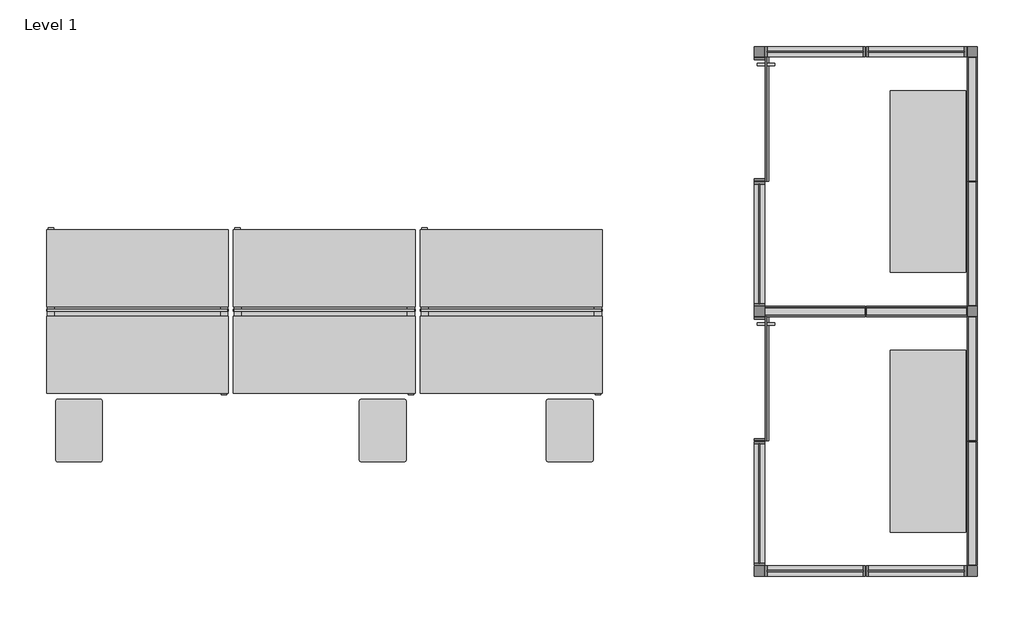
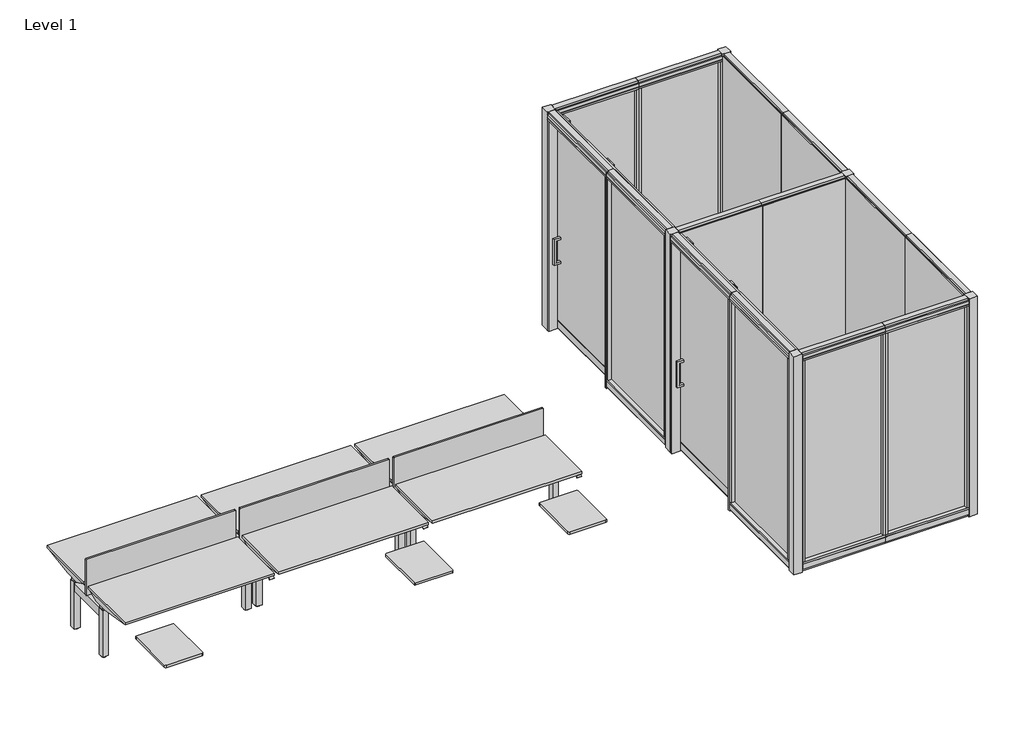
# One storey, incomplete: 33 furniture elements.
"""IFC4 building model written with IfcOpenShell, lengths in millimetres."""

from ifc_helpers import new_model, si_unit, origin, place, context, project, spatial, transform, mapped, element, save
from components import furniture_cf509416, furniture_ffbbdd7f, furniture_82a8fee0, furniture_92cb9c1f, furniture_a4c772e7, furniture_06a94076, furniture_7c117798, closed_system_2_way_90_8ed795e9, closed_system_2_way_90_dde00ff1, furniture_40993e6f, furniture_d20c8d1a, furniture_73a514d5, haworth_planes_heightadjusttable_bench_rectangular_58w_63d_0bb0f0b5, furniture_86ecbb01, haworth_worksurface_support_part_shared_cantilever_compose_b6f0c20a, haworth_worksurface_support_part_shared_cantilever_compose_4b8fdd10

model = new_model("IFC4")

# Units and contexts
model_context = context("Model", 3, world=origin())
ifc_project = project(units=[si_unit("LENGTHUNIT", "METRE", prefix="MILLI")], contexts=[model_context])

# Site, building, storey
site = spatial("IfcSite", under=ifc_project)
building = spatial("IfcBuilding", under=site)
storey = spatial("IfcBuildingStorey", under=building, Name="Level 1", Elevation=0.0)

# Furniture
placement = place(None, origin())
furniture_shape = furniture_cf509416(model_context)
element("IfcFurniture", 1, ObjectType="Haworth_Enclose-Wall-Solid : 24\" x 108\"", at=placement, inside=storey, context=model_context, shape_type="MappedRepresentation", body=[
    mapped(furniture_shape, transform((5240.5915562, -405.4203453, 0.0), x_axis=(0.0, 1.0000000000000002, 0.0), y_axis=(-1.0000000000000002, 0.0, 0.0), z_axis=(0.0, 0.0, 1.0))),
])
element("IfcFurniture", 2, ObjectType="Haworth_Enclose-Wall-Solid : 24\" x 108\"", at=placement, inside=storey, context=model_context, shape_type="MappedRepresentation", body=[
    mapped(furniture_shape, transform((5240.5915562, 813.7796547, 0.0), x_axis=(0.0, 1.0000000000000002, 0.0), y_axis=(-1.0000000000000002, 0.0, 0.0), z_axis=(0.0, 0.0, 1.0))),
])
furniture_2_shape = furniture_ffbbdd7f(model_context)
element("IfcFurniture", 3, ObjectType="Haworth_Enclose-Wall-Solid : 24\" x 108\"", at=placement, inside=storey, context=model_context, shape_type="MappedRepresentation", body=[
    mapped(furniture_2_shape, transform((5240.5915562, 3233.7066088, 0.0), x_axis=(0.0, -1.0000000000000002, 0.0), y_axis=(1.0000000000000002, 0.0, 0.0), z_axis=(0.0, 0.0, 1.0))),
])
element("IfcFurniture", 4, ObjectType="Haworth_Enclose-Wall-Solid : 24\" x 108\"", at=placement, inside=storey, context=model_context, shape_type="MappedRepresentation", body=[
    mapped(furniture_2_shape, transform((5240.5915562, 2014.5066088, 0.0), x_axis=(0.0, -1.0000000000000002, 0.0), y_axis=(1.0000000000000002, 0.0, 0.0), z_axis=(0.0, 0.0, 1.0))),
])
furniture_3_shape = furniture_82a8fee0(model_context)
element("IfcFurniture", 5, ObjectType="Haworth_Enclose-Wall-Solid : 36\" x 108\"", at=placement, inside=storey, context=model_context, shape_type="MappedRepresentation", body=[
    mapped(furniture_3_shape, transform((4759.0458008, 1418.6608534, 0.0), x_axis=(1.0, 0.0, 0.0), y_axis=(0.0, 1.0, 0.0), z_axis=(0.0, 0.0, 1.0))),
])
element("IfcFurniture", 6, ObjectType="Haworth_Enclose-Wall-Solid : 36\" x 108\"", at=placement, inside=storey, context=model_context, shape_type="MappedRepresentation", body=[
    mapped(furniture_3_shape, transform((3768.4458008, 1418.6608534, 0.0), x_axis=(1.0, 0.0, 0.0), y_axis=(0.0, 1.0, 0.0), z_axis=(0.0, 0.0, 1.0))),
])
furniture_4_shape = furniture_92cb9c1f(model_context)
element("IfcFurniture", 7, ObjectType="Haworth_Enclose-Wall-Glass : 39\" x 108\"", at=placement, inside=storey, context=model_context, shape_type="MappedRepresentation", body=[
    mapped(furniture_4_shape, transform((4638.9727549, 3949.6254101, 0.0), x_axis=(-1.0000000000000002, 0.0, 0.0), y_axis=(0.0, -1.0000000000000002, 0.0), z_axis=(0.0, 0.0, 1.0))),
])
element("IfcFurniture", 8, ObjectType="Haworth_Enclose-Wall-Glass : 39\" x 108\"", at=placement, inside=storey, context=model_context, shape_type="MappedRepresentation", body=[
    mapped(furniture_4_shape, transform((3648.3727549, 3949.6254101, 0.0), x_axis=(-1.0000000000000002, 0.0, 0.0), y_axis=(0.0, -1.0000000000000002, 0.0), z_axis=(0.0, 0.0, 1.0))),
])
furniture_5_shape = furniture_a4c772e7(model_context)
element("IfcFurniture", 9, ObjectType="Haworth_Enclose-Wall-Glass : 39\" x 108\"", at=placement, inside=storey, context=model_context, shape_type="MappedRepresentation", body=[
    mapped(furniture_5_shape, transform((4638.9727549, -1121.3391466, 0.0), x_axis=(-1.0000000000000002, 0.0, 0.0), y_axis=(0.0, -1.0000000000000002, 0.0), z_axis=(0.0, 0.0, 1.0))),
])
element("IfcFurniture", 10, ObjectType="Haworth_Enclose-Wall-Glass : 39\" x 108\"", at=placement, inside=storey, context=model_context, shape_type="MappedRepresentation", body=[
    mapped(furniture_5_shape, transform((3648.3727549, -1121.3391466, 0.0), x_axis=(-1.0000000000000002, 0.0, 0.0), y_axis=(0.0, -1.0000000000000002, 0.0), z_axis=(0.0, 0.0, 1.0))),
])
furniture_6_shape = furniture_06a94076(model_context)
element("IfcFurniture", 11, ObjectType="Haworth_Enclose-Wall-Glass : 48\" x 108\"", at=placement, inside=storey, context=model_context, shape_type="MappedRepresentation", body=[
    mapped(furniture_6_shape, transform((3166.8269995, -525.4933912, 0.0), x_axis=(0.0, -1.0000000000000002, 0.0), y_axis=(1.0000000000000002, 0.0, 0.0), z_axis=(0.0, 0.0, 1.0))),
])
element("IfcFurniture", 12, ObjectType="Haworth_Enclose-Wall-Glass : 48\" x 108\"", at=placement, inside=storey, context=model_context, shape_type="MappedRepresentation", body=[
    mapped(furniture_6_shape, transform((3166.8269995, 2014.5066088, 0.0), x_axis=(0.0, -1.0000000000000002, 0.0), y_axis=(1.0000000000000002, 0.0, 0.0), z_axis=(0.0, 0.0, 1.0))),
])
furniture_7_shape = furniture_7c117798(model_context)
element("IfcFurniture", 13, ObjectType="Haworth_Enclose-Door-Single_Sliding : 48\" x 108\"", at=placement, inside=storey, context=model_context, shape_type="MappedRepresentation", body=[
    mapped(furniture_7_shape, transform((3157.7915562, 693.7066088, 0.0), x_axis=(0.0, -1.0, 0.0), y_axis=(1.0, 0.0, 0.0), z_axis=(0.0, 0.0, 1.0))),
])
element("IfcFurniture", 14, ObjectType="Haworth_Enclose-Door-Single_Sliding : 48\" x 108\"", at=placement, inside=storey, context=model_context, shape_type="MappedRepresentation", body=[
    mapped(furniture_7_shape, transform((3157.7915562, 3233.7066088, 0.0), x_axis=(0.0, -1.0, 0.0), y_axis=(1.0, 0.0, 0.0), z_axis=(0.0, 0.0, 1.0))),
])
closed_system_2_way_90_shape = closed_system_2_way_90_8ed795e9(model_context)
element("IfcFurniture", 15, ObjectType="Haworth_Enclose-Accessories-Wall_Module-Intersection : Closed System_2 Way_90", at=placement, inside=storey, context=model_context, shape_type="MappedRepresentation", body=[
    mapped(closed_system_2_way_90_shape, transform((5268.7112484, -1045.0797151, 0.0), x_axis=(0.0, -1.0, 0.0), y_axis=(1.0, 0.0, 0.0), z_axis=(0.0, 0.0, 1.0))),
])
element("IfcFurniture", 16, ObjectType="Haworth_Enclose-Accessories-Wall_Module-Intersection : Closed System_2 Way_90", at=placement, inside=storey, context=model_context, shape_type="MappedRepresentation", body=[
    mapped(closed_system_2_way_90_shape, transform((3138.7073073, 1333.3659786, 0.0), x_axis=(0.0, 1.0, 0.0), y_axis=(-1.0, 0.0, 0.0), z_axis=(0.0, 0.0, 1.0))),
])
element("IfcFurniture", 17, ObjectType="Haworth_Enclose-Accessories-Wall_Module-Intersection : Closed System_2 Way_90", at=placement, inside=storey, context=model_context, shape_type="MappedRepresentation", body=[
    mapped(closed_system_2_way_90_shape, transform((3138.7073073, 3873.3659786, 0.0), x_axis=(0.0, 1.0, 0.0), y_axis=(-1.0, 0.0, 0.0), z_axis=(0.0, 0.0, 1.0))),
])
closed_system_2_way_90_2_shape = closed_system_2_way_90_dde00ff1(model_context)
element("IfcFurniture", 18, ObjectType="Haworth_Enclose-Accessories-Wall_Module-Intersection : Closed System_2 Way_90", at=placement, inside=storey, context=model_context, shape_type="MappedRepresentation", body=[
    mapped(closed_system_2_way_90_2_shape, transform((3138.7073073, -1045.0797151, 0.0), x_axis=(0.0, -1.0, 0.0), y_axis=(1.0, 0.0, 0.0), z_axis=(0.0, 0.0, 1.0))),
])
element("IfcFurniture", 19, ObjectType="Haworth_Enclose-Accessories-Wall_Module-Intersection : Closed System_2 Way_90", at=placement, inside=storey, context=model_context, shape_type="MappedRepresentation", body=[
    mapped(closed_system_2_way_90_2_shape, transform((5268.7112484, 1333.3659786, 0.0), x_axis=(0.0, 1.0, 0.0), y_axis=(-1.0, 0.0, 0.0), z_axis=(0.0, 0.0, 1.0))),
])
element("IfcFurniture", 20, ObjectType="Haworth_Enclose-Accessories-Wall_Module-Intersection : Closed System_2 Way_90", at=placement, inside=storey, context=model_context, shape_type="MappedRepresentation", body=[
    mapped(closed_system_2_way_90_2_shape, transform((5268.7112484, 3873.3659786, 0.0), x_axis=(0.0, 1.0, 0.0), y_axis=(-1.0, 0.0, 0.0), z_axis=(0.0, 0.0, 1.0))),
])
furniture_8_shape = furniture_40993e6f(model_context)
element("IfcFurniture", 21, ObjectType="Haworth_Compose-Storage-Accessories-Cushion : 24\" x18\"", at=placement, inside=storey, context=model_context, shape_type="MappedRepresentation", body=[
    mapped(furniture_8_shape, transform((1307.1018455, 248.8218617, -44.45), x_axis=(0.0, 1.0, 0.0), y_axis=(-1.0, 0.0, 0.0), z_axis=(0.0, 0.0, 1.0))),
])
element("IfcFurniture", 22, ObjectType="Haworth_Compose-Storage-Accessories-Cushion : 24\" x18\"", at=placement, inside=storey, context=model_context, shape_type="MappedRepresentation", body=[
    mapped(furniture_8_shape, transform((-521.6981545, 248.8218617, -44.45), x_axis=(0.0, 1.0, 0.0), y_axis=(-1.0, 0.0, 0.0), z_axis=(0.0, 0.0, 1.0))),
])
furniture_9_shape = furniture_d20c8d1a(model_context)
element("IfcFurniture", 23, ObjectType="Haworth_Compose-Storage-Accessories-Cushion : 24\" x18\"", at=placement, inside=storey, context=model_context, shape_type="MappedRepresentation", body=[
    mapped(furniture_9_shape, transform((-3493.7459645, 248.8218617, -44.45), x_axis=(0.0, 1.0, 0.0), y_axis=(-1.0, 0.0, 0.0), z_axis=(0.0, 0.0, 1.0))),
])
furniture_10_shape = furniture_73a514d5(model_context)
element("IfcFurniture", 24, ObjectType="Haworth_Planes-HAT-Rectangular : 70\" x 29\"", at=placement, inside=storey, context=model_context, shape_type="MappedRepresentation", body=[
    mapped(furniture_10_shape, transform((4811.4188324, 2684.1431317, 0.0), x_axis=(0.0, 1.0, 0.0), y_axis=(-1.0, 0.0, 0.0), z_axis=(0.0, 0.0, 1.0))),
])
element("IfcFurniture", 25, ObjectType="Haworth_Planes-HAT-Rectangular : 70\" x 29\"", at=placement, inside=storey, context=model_context, shape_type="MappedRepresentation", body=[
    mapped(furniture_10_shape, transform((4811.4188324, 144.1431317, 0.0), x_axis=(0.0, 1.0, 0.0), y_axis=(-1.0, 0.0, 0.0), z_axis=(0.0, 0.0, 1.0))),
])
haworth_planes_heightadjusttable_bench_rectangular_58w_63d_shape = haworth_planes_heightadjusttable_bench_rectangular_58w_63d_0bb0f0b5(model_context)
element("IfcFurniture", 26, ObjectType="Haworth_Planes_HeightAdjustTable_Bench_Rectangular : 58w 63d - Hand Crank", at=placement, inside=storey, context=model_context, shape_type="MappedRepresentation", body=[
    mapped(haworth_planes_heightadjusttable_bench_rectangular_58w_63d_shape, transform((887.8779405, 1414.1431317, 0.0), x_axis=(1.0, 0.0, 0.0), y_axis=(0.0, 1.0, 0.0), z_axis=(0.0, 0.0, 1.0))),
])
element("IfcFurniture", 27, ObjectType="Haworth_Planes_HeightAdjustTable_Bench_Rectangular : 58w 63d - Hand Crank", at=placement, inside=storey, context=model_context, shape_type="MappedRepresentation", body=[
    mapped(haworth_planes_heightadjusttable_bench_rectangular_58w_63d_shape, transform((-940.9220595, 1414.1431317, 0.0), x_axis=(1.0, 0.0, 0.0), y_axis=(0.0, 1.0, 0.0), z_axis=(0.0, 0.0, 1.0))),
])
element("IfcFurniture", 28, ObjectType="Haworth_Planes_HeightAdjustTable_Bench_Rectangular : 58w 63d - Hand Crank", at=placement, inside=storey, context=model_context, shape_type="MappedRepresentation", body=[
    mapped(haworth_planes_heightadjusttable_bench_rectangular_58w_63d_shape, transform((-2769.7220595, 1414.1431317, 0.0), x_axis=(1.0, 0.0, 0.0), y_axis=(0.0, 1.0, 0.0), z_axis=(0.0, 0.0, 1.0))),
])
furniture_11_shape = furniture_86ecbb01(model_context)
element("IfcFurniture", 29, ObjectType="Haworth_Planes_Screen : 70\" Wide x 18\" High", at=placement, inside=storey, context=model_context, shape_type="MappedRepresentation", body=[
    mapped(furniture_11_shape, transform((735.4779405, 1423.6681317, 588.7339892), x_axis=(1.0, 0.0, 0.0), y_axis=(0.0, 1.0, 0.0), z_axis=(0.0, 0.0, 1.0))),
])
element("IfcFurniture", 30, ObjectType="Haworth_Planes_Screen : 70\" Wide x 18\" High", at=placement, inside=storey, context=model_context, shape_type="MappedRepresentation", body=[
    mapped(furniture_11_shape, transform((-1093.3220595, 1423.6681317, 588.7339892), x_axis=(1.0, 0.0, 0.0), y_axis=(0.0, 1.0, 0.0), z_axis=(0.0, 0.0, 1.0))),
])
element("IfcFurniture", 31, ObjectType="Haworth_Planes_Screen : 70\" Wide x 18\" High", at=placement, inside=storey, context=model_context, shape_type="MappedRepresentation", body=[
    mapped(furniture_11_shape, transform((-2922.1220595, 1423.6681317, 588.7339892), x_axis=(1.0, 0.0, 0.0), y_axis=(0.0, 1.0, 0.0), z_axis=(0.0, 0.0, 1.0))),
])
haworth_worksurface_support_part_shared_cantilever_compose_shape = haworth_worksurface_support_part_shared_cantilever_compose_b6f0c20a(model_context)
element("IfcFurniture", 32, ObjectType="Haworth_Worksurface-Support_Part-Shared-Cantilever-Compose : Support", at=placement, inside=storey, context=model_context, shape_type="MappedRepresentation", body=[
    mapped(haworth_worksurface_support_part_shared_cantilever_compose_shape, transform((5023.8723089, 358.8525067, 0.0), x_axis=(0.0, -1.0000000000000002, 0.0), y_axis=(1.0000000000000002, 0.0, 0.0), z_axis=(0.0, 0.0, 1.0))),
])
haworth_worksurface_support_part_shared_cantilever_compose_2_shape = haworth_worksurface_support_part_shared_cantilever_compose_4b8fdd10(model_context)
element("IfcFurniture", 33, ObjectType="Haworth_Worksurface-Support_Part-Shared-Cantilever-Compose : Support", at=placement, inside=storey, context=model_context, shape_type="MappedRepresentation", body=[
    mapped(haworth_worksurface_support_part_shared_cantilever_compose_2_shape, transform((5023.8723089, 2469.4337567, 0.0), x_axis=(0.0, 1.0000000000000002, 0.0), y_axis=(-1.0000000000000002, 0.0, 0.0), z_axis=(0.0, 0.0, 1.0))),
])

save(model, "model.ifc")
